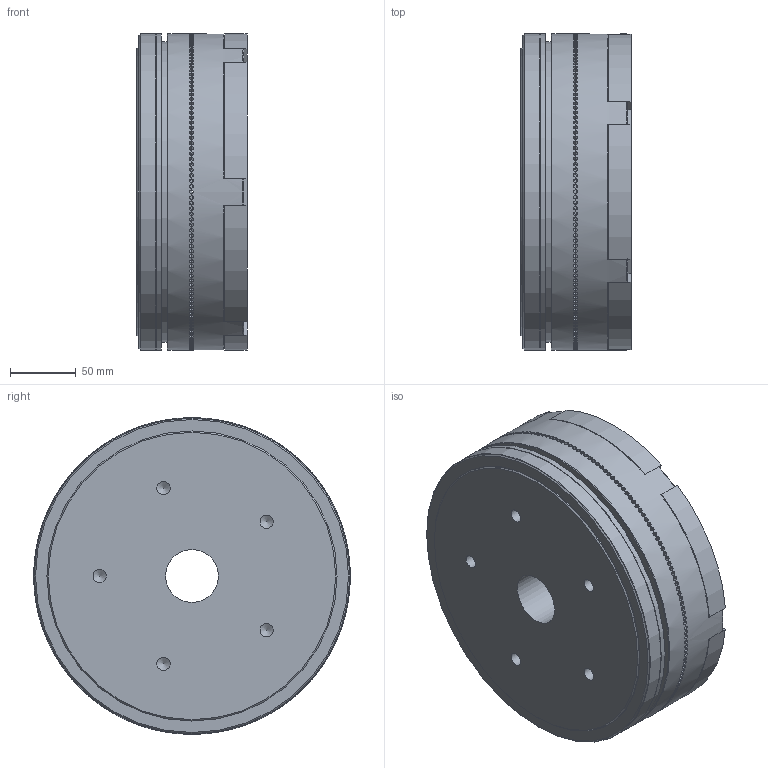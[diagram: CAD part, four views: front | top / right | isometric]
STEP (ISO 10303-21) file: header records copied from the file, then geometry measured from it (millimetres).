
FILE_DESCRIPTION(/* description */ (''),/* implementation_level */ '2;1');
FILE_NAME(/* name */ 'X:\INVENTOR\DISEGNI\07_Innesti_Elettmag_a_Dentini\07_01 EC_Z\07_01_240_01 EC240_Z\07_01_240_01 EC240_Z@STEP.stp',/* time_stamp */ '2023-02-07T08:55:57+01:00',/* author */ ('alessio'),/* organization */ (''),/* preprocessor_version */ 'ST-DEVELOPER v18.1',/* originating_system */ 'Autodesk Inventor 2021',/* authorisation */ '');
FILE_SCHEMA (('AUTOMOTIVE_DESIGN { 1 0 10303 214 3 1 1 }'));
Products named in the file (1): 07_01_240_01 EC240_Z
Bounding box: 83.5 x 240 x 240 mm (x, y, z)
Volume: 3148258.6 mm3; surface area: 294709.4 mm2
Topology: 2 solids, 8 shells, 1777 faces, 5214 edges, 3455 vertices
Faces by surface type: plane 1619, cylinder 89, cone 35, bspline 33, torus 1
Full cylindrical faces by diameter (mm): 4.4 x3, 4.917 x6, 7.9 x3, 8.5 x3, 10.106 x5, 12 x3, 13 x3, 40 x1, 110 x1, 112 x2, 161 x1, 189 x1, 220 x3, 222 x1, 224 x2, 228 x1, 240 x4
Entity records: 67178 total; most frequent: CARTESIAN_POINT 15291, DIRECTION 11752, ORIENTED_EDGE 10410, EDGE_CURVE 5205, AXIS2_PLACEMENT_3D 4903, VERTEX_POINT 3455, ELLIPSE 2148, LINE 1946
